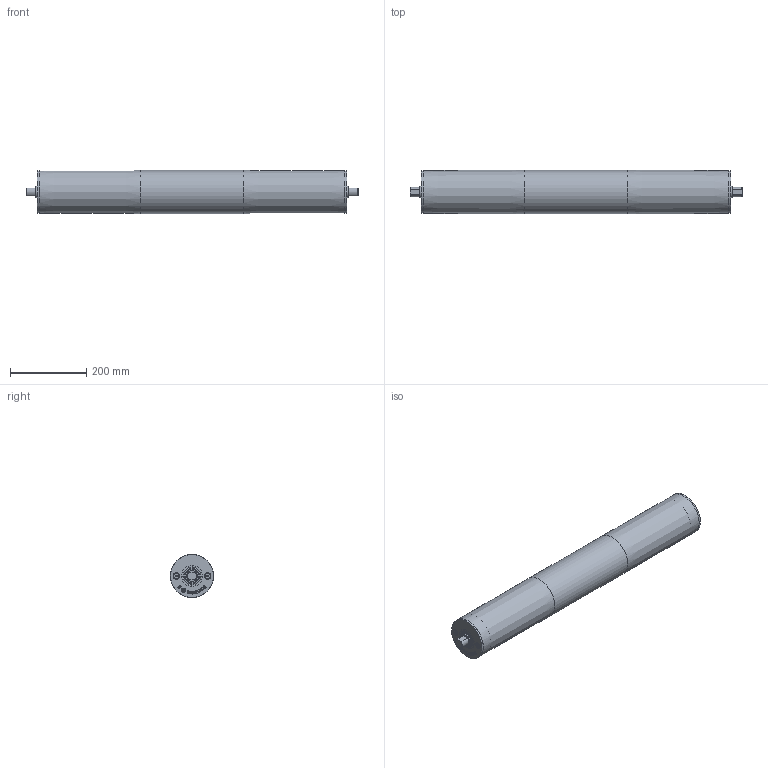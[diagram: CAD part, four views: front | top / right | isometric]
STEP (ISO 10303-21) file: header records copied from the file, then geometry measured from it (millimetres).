
FILE_DESCRIPTION(/* description */ (''),/* implementation_level */ '2;1');
FILE_NAME(/* name */ 'C:\WF_Ellegaard\Designs\00 standart komponenter\Tromlemotor\Scandrive S\Ø113\Scandrive S Ø113 RL810.stp',/* time_stamp */ '2017-04-19T19:27:22+02:00',/* author */ ('guh'),/* organization */ (''),/* preprocessor_version */ 'ST-DEVELOPER v15.6',/* originating_system */ 'Autodesk Inventor 2015',/* authorisation */ '');
FILE_SCHEMA (('AUTOMOTIVE_DESIGN { 1 0 10303 214 3 1 1 }'));
Length unit declared in the file: millimetre
Products named in the file (1): Scandrive S Ø113 RL810
Bounding box: 870 x 113.5 x 113.5 mm (x, y, z)
Volume: 1146439.9 mm3; surface area: 597126 mm2
Topology: 1 solids, 2 shells, 492 faces, 1268 edges, 844 vertices
Faces by surface type: plane 258, bspline 196, cylinder 28, cone 8, torus 2
Full cylindrical faces by diameter (mm): 14 x2, 17 x2, 30 x2, 34 x2, 38 x2, 54.98 x2, 55 x4, 98 x2, 108 x1, 112.3 x2, 112.5 x2, 113.5 x1
Entity records: 15799 total; most frequent: CARTESIAN_POINT 5139, ORIENTED_EDGE 2476, DIRECTION 1500, EDGE_CURVE 1238, VERTEX_POINT 844, LINE 770, VECTOR 770, EDGE_LOOP 586
